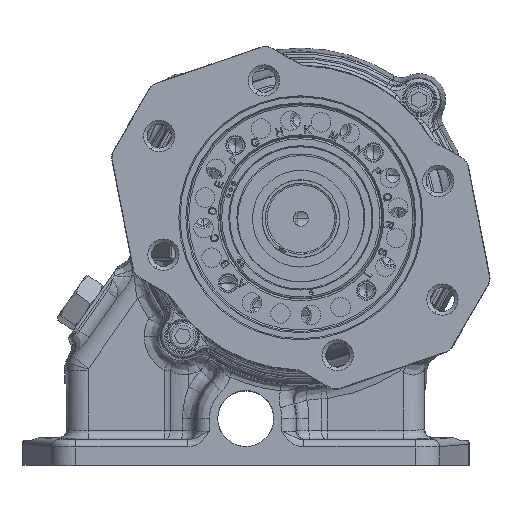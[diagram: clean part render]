
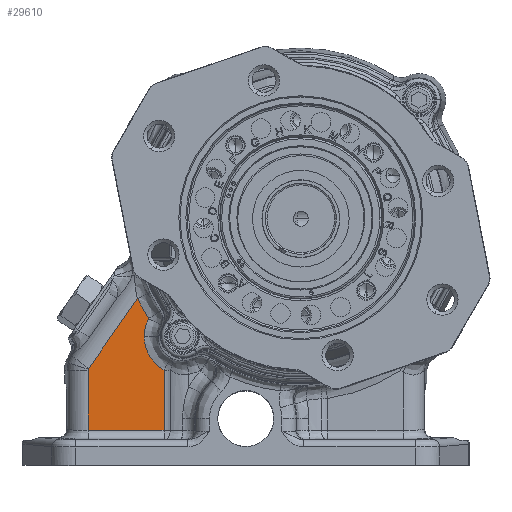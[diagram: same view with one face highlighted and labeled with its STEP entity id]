
A CAD part, top view. The second image highlights one B-rep face of the part: STEP entity #29610.
In plain terms, the highlighted planar face has unit normal (0, 0, 1).
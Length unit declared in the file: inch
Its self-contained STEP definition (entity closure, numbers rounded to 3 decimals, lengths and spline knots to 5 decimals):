
#370 = CARTESIAN_POINT ( 'NONE',  ( -2.32198, 0.42411, 1.3875 ) ) ;
#4407 = CARTESIAN_POINT ( 'NONE',  ( -1.79475, 0.00409, 1.3875 ) ) ;
#4779 = VERTEX_POINT ( 'NONE', #151768 ) ;
#5724 = CARTESIAN_POINT ( 'NONE',  ( -2.60181, 0.76232, 1.3875 ) ) ;
#6010 = CARTESIAN_POINT ( 'NONE',  ( -1.12943, -0.91144, 1.3875 ) ) ;
#6052 = B_SPLINE_CURVE_WITH_KNOTS ( 'NONE', 3,
 ( #67245, #155602, #117615, #4407, #30003, #80454, #118416, #69670, #21664, #122469, #72114, #45628, #9268, #135681, #159634, #59693, #110086, #7629, #144792, #46437, #20037, #132438 ),
 .UNSPECIFIED., .F., .F.,
 ( 4, 1, 1, 1, 1, 2, 2, 2, 1, 1, 1, 1, 2, 2, 4 ),
 ( 0., 0.125, 0.1875, 0.21875, 0.23437, 0.24219, 0.25, 0.5, 0.625, 0.6875, 0.71875, 0.73437, 0.74219, 0.75, 1. ),
 .UNSPECIFIED. ) ;
#7629 = CARTESIAN_POINT ( 'NONE',  ( -2.15985, 0.1856, 1.3875 ) ) ;
#9268 = CARTESIAN_POINT ( 'NONE',  ( -2.0813, 0.11908, 1.3875 ) ) ;
#13682 = VERTEX_POINT ( 'NONE', #6010 ) ;
#13943 = DIRECTION ( 'NONE',  ( -0.512, 0.859, 0. ) ) ;
#14706 = CARTESIAN_POINT ( 'NONE',  ( -1.67009, -0.00335, 1.3875 ) ) ;
#15186 = CARTESIAN_POINT ( 'NONE',  ( -2.27168, 0.32661, 1.3875 ) ) ;
#18080 = EDGE_CURVE ( 'NONE', #149766, #25479, #153119, .T. ) ;
#20037 = CARTESIAN_POINT ( 'NONE',  ( -2.24138, 0.27572, 1.3875 ) ) ;
#20603 = VERTEX_POINT ( 'NONE', #121046 ) ;
#21658 = EDGE_CURVE ( 'NONE', #20603, #150985, #55514, .T. ) ;
#21664 = CARTESIAN_POINT ( 'NONE',  ( -1.8435, 0.01383, 1.3875 ) ) ;
#25479 = VERTEX_POINT ( 'NONE', #68656 ) ;
#26075 = CARTESIAN_POINT ( 'NONE',  ( 0.93723, 0.319, 1.3875 ) ) ;
#26362 = LINE ( 'NONE', #153575, #107973 ) ;
#26802 = CARTESIAN_POINT ( 'NONE',  ( -2.36601, 0.63873, 1.3875 ) ) ;
#27142 = PLANE ( 'NONE',  #63054 ) ;
#27945 = DIRECTION ( 'NONE',  ( -0.512, 0.859, 0. ) ) ;
#29610 = ADVANCED_FACE ( 'NONE', ( #141938 ), #27142, .T. ) ;
#29721 = CARTESIAN_POINT ( 'NONE',  ( -2.36601, 0.63873, 1.3875 ) ) ;
#30003 = CARTESIAN_POINT ( 'NONE',  ( -1.8201, 0.00876, 1.3875 ) ) ;
#30343 = EDGE_CURVE ( 'NONE', #13682, #162495, #26362, .T. ) ;
#32321 = ORIENTED_EDGE ( 'NONE', *, *, #21658, .T. ) ;
#37209 = LINE ( 'NONE', #51266, #100446 ) ;
#37554 = CARTESIAN_POINT ( 'NONE',  ( -2.3539, 0.52969, 1.3875 ) ) ;
#40475 = CARTESIAN_POINT ( 'NONE',  ( -2.71359, 0.83497, 1.3875 ) ) ;
#41146 = CARTESIAN_POINT ( 'NONE',  ( -0.9685, 3.51989, 1.3875 ) ) ;
#42443 = CARTESIAN_POINT ( 'NONE',  ( -2.82165, -0.66952, 1.3875 ) ) ;
#45628 = CARTESIAN_POINT ( 'NONE',  ( -2.04276, 0.09442, 1.3875 ) ) ;
#46437 = CARTESIAN_POINT ( 'NONE',  ( -2.20502, 0.2296, 1.3875 ) ) ;
#48078 = ORIENTED_EDGE ( 'NONE', *, *, #18080, .T. ) ;
#48415 = DIRECTION ( 'NONE',  ( 0.859, 0.512, 0. ) ) ;
#49770 = VERTEX_POINT ( 'NONE', #118085 ) ;
#50730 = ORIENTED_EDGE ( 'NONE', *, *, #161839, .T. ) ;
#51266 = CARTESIAN_POINT ( 'NONE',  ( -2.71359, 0.83497, 1.3875 ) ) ;
#53372 = ORIENTED_EDGE ( 'NONE', *, *, #143329, .F. ) ;
#55514 = B_SPLINE_CURVE_WITH_KNOTS ( 'NONE', 3,
 ( #15186, #138356, #370, #37554, #100417, #26802 ),
 .UNSPECIFIED., .F., .F.,
 ( 4, 2, 4 ),
 ( 0., 0.5, 1. ),
 .UNSPECIFIED. ) ;
#59693 = CARTESIAN_POINT ( 'NONE',  ( -2.15292, 0.17899, 1.3875 ) ) ;
#63054 = AXIS2_PLACEMENT_3D ( 'NONE', #41146, #129600, #27945 ) ;
#63252 = ORIENTED_EDGE ( 'NONE', *, *, #80858, .T. ) ;
#63481 = ORIENTED_EDGE ( 'NONE', *, *, #149215, .T. ) ;
#67052 = EDGE_CURVE ( 'NONE', #80378, #25479, #77671, .T. ) ;
#67245 = CARTESIAN_POINT ( 'NONE',  ( -1.67009, -0.00335, 1.3875 ) ) ;
#67711 = DIRECTION ( 'NONE',  ( -0.512, 0.859, 0. ) ) ;
#68656 = CARTESIAN_POINT ( 'NONE',  ( -2.81368, -0.68924, 1.3875 ) ) ;
#69670 = CARTESIAN_POINT ( 'NONE',  ( -1.84176, 0.01343, 1.3875 ) ) ;
#72114 = CARTESIAN_POINT ( 'NONE',  ( -1.962, 0.05013, 1.3875 ) ) ;
#77347 = CARTESIAN_POINT ( 'NONE',  ( -2.82386, -0.65541, 1.3875 ) ) ;
#77671 = LINE ( 'NONE', #153638, #93774 ) ;
#78536 = CARTESIAN_POINT ( 'NONE',  ( -2.48596, 0.69691, 1.3875 ) ) ;
#78753 = CARTESIAN_POINT ( 'NONE',  ( -2.81735, -0.68308, 1.3875 ) ) ;
#80378 = VERTEX_POINT ( 'NONE', #144288 ) ;
#80454 = CARTESIAN_POINT ( 'NONE',  ( -1.83274, 0.01141, 1.3875 ) ) ;
#80858 = EDGE_CURVE ( 'NONE', #150985, #49770, #149675, .T. ) ;
#83872 = CARTESIAN_POINT ( 'NONE',  ( -2.82165, -0.66952, 1.3875 ) ) ;
#88221 = EDGE_CURVE ( 'NONE', #162495, #20603, #6052, .T. ) ;
#93774 = VECTOR ( 'NONE', #67711, 39.37008 ) ;
#99245 = DIRECTION ( 'NONE',  ( -0.074, -0.997, 0. ) ) ;
#100417 = CARTESIAN_POINT ( 'NONE',  ( -2.36326, 0.58363, 1.3875 ) ) ;
#100446 = VECTOR ( 'NONE', #99245, 39.37008 ) ;
#102352 = EDGE_LOOP ( 'NONE', ( #132322, #50730, #131236, #153163, #32321, #63252, #63481, #53372, #48078 ) ) ;
#107973 = VECTOR ( 'NONE', #13943, 39.37008 ) ;
#110086 = CARTESIAN_POINT ( 'NONE',  ( -2.15708, 0.18295, 1.3875 ) ) ;
#116723 = CARTESIAN_POINT ( 'NONE',  ( -2.81368, -0.68924, 1.3875 ) ) ;
#117615 = CARTESIAN_POINT ( 'NONE',  ( -1.74379, -0.00273, 1.3875 ) ) ;
#118085 = CARTESIAN_POINT ( 'NONE',  ( -2.71359, 0.83497, 1.3875 ) ) ;
#118416 = CARTESIAN_POINT ( 'NONE',  ( -1.83816, 0.01261, 1.3875 ) ) ;
#120108 = CARTESIAN_POINT ( 'NONE',  ( -2.36601, 0.63873, 1.3875 ) ) ;
#121046 = CARTESIAN_POINT ( 'NONE',  ( -2.27168, 0.32661, 1.3875 ) ) ;
#122469 = CARTESIAN_POINT ( 'NONE',  ( -1.90515, 0.02832, 1.3875 ) ) ;
#125416 = B_SPLINE_CURVE_WITH_KNOTS ( 'NONE', 3,
 ( #137650, #140092, #77347, #127715 ),
 .UNSPECIFIED., .F., .F.,
 ( 4, 4 ),
 ( 0., 1. ),
 .UNSPECIFIED. ) ;
#127715 = CARTESIAN_POINT ( 'NONE',  ( -2.82333, -0.64831, 1.3875 ) ) ;
#129600 = DIRECTION ( 'NONE',  ( 0., 0., 1. ) ) ;
#131236 = ORIENTED_EDGE ( 'NONE', *, *, #30343, .T. ) ;
#132322 = ORIENTED_EDGE ( 'NONE', *, *, #67052, .F. ) ;
#132438 = CARTESIAN_POINT ( 'NONE',  ( -2.27168, 0.32661, 1.3875 ) ) ;
#134254 = CARTESIAN_POINT ( 'NONE',  ( -2.82001, -0.6765, 1.3875 ) ) ;
#135681 = CARTESIAN_POINT ( 'NONE',  ( -2.12303, 0.15221, 1.3875 ) ) ;
#137650 = CARTESIAN_POINT ( 'NONE',  ( -2.82165, -0.66952, 1.3875 ) ) ;
#138356 = CARTESIAN_POINT ( 'NONE',  ( -2.29989, 0.374, 1.3875 ) ) ;
#139259 = LINE ( 'NONE', #26075, #162136 ) ;
#140092 = CARTESIAN_POINT ( 'NONE',  ( -2.82329, -0.66259, 1.3875 ) ) ;
#141938 = FACE_OUTER_BOUND ( 'NONE', #102352, .T. ) ;
#143329 = EDGE_CURVE ( 'NONE', #149766, #4779, #125416, .T. ) ;
#144288 = CARTESIAN_POINT ( 'NONE',  ( -2.27523, -1.59362, 1.3875 ) ) ;
#144792 = CARTESIAN_POINT ( 'NONE',  ( -2.16128, 0.18698, 1.3875 ) ) ;
#149215 = EDGE_CURVE ( 'NONE', #49770, #4779, #37209, .T. ) ;
#149675 = B_SPLINE_CURVE_WITH_KNOTS ( 'NONE', 3,
 ( #29721, #78536, #5724, #40475 ),
 .UNSPECIFIED., .F., .F.,
 ( 4, 4 ),
 ( 0., 1. ),
 .UNSPECIFIED. ) ;
#149766 = VERTEX_POINT ( 'NONE', #42443 ) ;
#150985 = VERTEX_POINT ( 'NONE', #120108 ) ;
#151768 = CARTESIAN_POINT ( 'NONE',  ( -2.82333, -0.64831, 1.3875 ) ) ;
#153119 = B_SPLINE_CURVE_WITH_KNOTS ( 'NONE', 3,
 ( #83872, #134254, #78753, #116723 ),
 .UNSPECIFIED., .F., .F.,
 ( 4, 4 ),
 ( 0., 1. ),
 .UNSPECIFIED. ) ;
#153163 = ORIENTED_EDGE ( 'NONE', *, *, #88221, .T. ) ;
#153575 = CARTESIAN_POINT ( 'NONE',  ( -3.03517, 2.28945, 1.3875 ) ) ;
#153638 = CARTESIAN_POINT ( 'NONE',  ( -4.18096, 1.60727, 1.3875 ) ) ;
#155602 = CARTESIAN_POINT ( 'NONE',  ( -1.69968, -0.00425, 1.3875 ) ) ;
#159634 = CARTESIAN_POINT ( 'NONE',  ( -2.14309, 0.16988, 1.3875 ) ) ;
#161839 = EDGE_CURVE ( 'NONE', #80378, #13682, #139259, .T. ) ;
#162136 = VECTOR ( 'NONE', #48415, 39.37008 ) ;
#162495 = VERTEX_POINT ( 'NONE', #14706 ) ;
